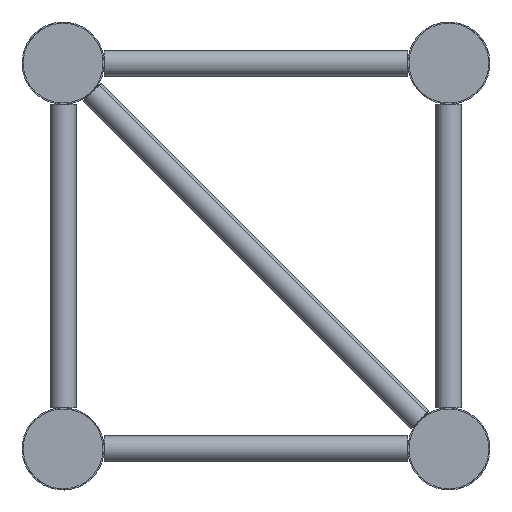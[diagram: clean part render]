
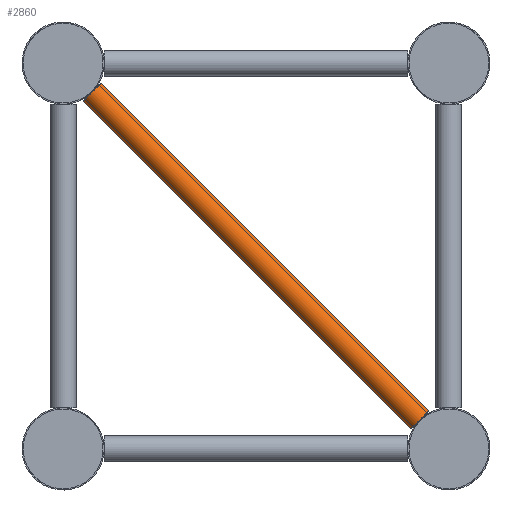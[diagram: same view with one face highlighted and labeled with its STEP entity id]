
A CAD part, left-side view. The second image highlights one B-rep face of the part: STEP entity #2860.
In plain terms, the highlighted cylindrical face has radius 8 mm (diameter 16 mm), a full revolution.
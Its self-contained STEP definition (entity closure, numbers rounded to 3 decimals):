
#123=B_SPLINE_CURVE_WITH_KNOTS('',3,(#4401,#4402,#4403,#4404,#4405,#4406),
 .UNSPECIFIED.,.F.,.F.,(4,2,4),(1.187,1.214,1.242),
 .UNSPECIFIED.);
#125=B_SPLINE_CURVE_WITH_KNOTS('',3,(#4419,#4420,#4421,#4422,#4423,#4424),
 .UNSPECIFIED.,.F.,.F.,(4,2,4),(3.616,3.643,3.67),
 .UNSPECIFIED.);
#128=B_SPLINE_CURVE_WITH_KNOTS('',3,(#4499,#4500,#4501,#4502,#4503,#4504),
 .UNSPECIFIED.,.F.,.F.,(4,2,4),(3.616,3.643,3.67),
 .UNSPECIFIED.);
#129=B_SPLINE_CURVE_WITH_KNOTS('',3,(#4508,#4509,#4510,#4511,#4512,#4513),
 .UNSPECIFIED.,.F.,.F.,(4,2,4),(1.187,1.214,1.242),
 .UNSPECIFIED.);
#328=CYLINDRICAL_SURFACE('',#3095,8.);
#406=FACE_BOUND('',#796,.T.);
#555=FACE_OUTER_BOUND('',#795,.T.);
#795=EDGE_LOOP('',(#1824,#1825,#1826,#1827));
#796=EDGE_LOOP('',(#1828,#1829,#1830,#1831));
#1145=CIRCLE('',#3096,8.);
#1146=CIRCLE('',#3097,8.);
#1147=CIRCLE('',#3098,8.);
#1148=CIRCLE('',#3099,8.);
#1242=VERTEX_POINT('',#4398);
#1243=VERTEX_POINT('',#4400);
#1246=VERTEX_POINT('',#4416);
#1247=VERTEX_POINT('',#4418);
#1270=VERTEX_POINT('',#4497);
#1271=VERTEX_POINT('',#4498);
#1272=VERTEX_POINT('',#4505);
#1273=VERTEX_POINT('',#4507);
#1458=EDGE_CURVE('',#1243,#1242,#123,.T.);
#1462=EDGE_CURVE('',#1247,#1246,#125,.T.);
#1489=EDGE_CURVE('',#1242,#1247,#1145,.T.);
#1490=EDGE_CURVE('',#1246,#1243,#1146,.T.);
#1491=EDGE_CURVE('',#1270,#1271,#128,.T.);
#1492=EDGE_CURVE('',#1271,#1272,#1147,.T.);
#1493=EDGE_CURVE('',#1272,#1273,#129,.T.);
#1494=EDGE_CURVE('',#1273,#1270,#1148,.T.);
#1824=ORIENTED_EDGE('',*,*,#1458,.T.);
#1825=ORIENTED_EDGE('',*,*,#1489,.T.);
#1826=ORIENTED_EDGE('',*,*,#1462,.T.);
#1827=ORIENTED_EDGE('',*,*,#1490,.T.);
#1828=ORIENTED_EDGE('',*,*,#1491,.T.);
#1829=ORIENTED_EDGE('',*,*,#1492,.T.);
#1830=ORIENTED_EDGE('',*,*,#1493,.T.);
#1831=ORIENTED_EDGE('',*,*,#1494,.T.);
#2860=ADVANCED_FACE('',(#555,#406),#328,.T.);
#3095=AXIS2_PLACEMENT_3D('',#4494,#3543,#3544);
#3096=AXIS2_PLACEMENT_3D('',#4495,#3545,#3546);
#3097=AXIS2_PLACEMENT_3D('',#4496,#3547,#3548);
#3098=AXIS2_PLACEMENT_3D('',#4506,#3549,#3550);
#3099=AXIS2_PLACEMENT_3D('',#4514,#3551,#3552);
#3543=DIRECTION('center_axis',(0.,0.707,
0.707));
#3544=DIRECTION('ref_axis',(0.,0.707,-0.707));
#3545=DIRECTION('center_axis',(0.,0.707,
0.707));
#3546=DIRECTION('ref_axis',(0.,0.707,-0.707));
#3547=DIRECTION('center_axis',(0.,0.707,
0.707));
#3548=DIRECTION('ref_axis',(0.,0.707,-0.707));
#3549=DIRECTION('center_axis',(0.,-0.707,
-0.707));
#3550=DIRECTION('ref_axis',(0.,0.707,-0.707));
#3551=DIRECTION('center_axis',(0.,-0.707,
-0.707));
#3552=DIRECTION('ref_axis',(0.,0.707,-0.707));
#4398=CARTESIAN_POINT('',(67.995,18.224,-221.164));
#4400=CARTESIAN_POINT('',(67.995,17.836,-220.776));
#4401=CARTESIAN_POINT('Ctrl Pts',(67.995,17.836,-220.776));
#4402=CARTESIAN_POINT('Ctrl Pts',(67.998,17.902,-220.84));
#4403=CARTESIAN_POINT('Ctrl Pts',(68.,17.967,-220.904));
#4404=CARTESIAN_POINT('Ctrl Pts',(68.,18.096,-221.033));
#4405=CARTESIAN_POINT('Ctrl Pts',(67.998,18.16,-221.098));
#4406=CARTESIAN_POINT('Ctrl Pts',(67.995,18.224,-221.164));
#4416=CARTESIAN_POINT('',(52.005,17.836,-220.776));
#4418=CARTESIAN_POINT('',(52.005,18.224,-221.164));
#4419=CARTESIAN_POINT('Ctrl Pts',(52.005,18.224,-221.164));
#4420=CARTESIAN_POINT('Ctrl Pts',(52.002,18.16,-221.098));
#4421=CARTESIAN_POINT('Ctrl Pts',(52.,18.096,-221.033));
#4422=CARTESIAN_POINT('Ctrl Pts',(52.,17.967,-220.904));
#4423=CARTESIAN_POINT('Ctrl Pts',(52.002,17.902,-220.84));
#4424=CARTESIAN_POINT('Ctrl Pts',(52.005,17.836,-220.776));
#4494=CARTESIAN_POINT('Origin',(60.,119.5,-119.5));
#4495=CARTESIAN_POINT('Origin',(60.,18.03,-220.97));
#4496=CARTESIAN_POINT('Origin',(60.,18.03,-220.97));
#4497=CARTESIAN_POINT('',(67.995,221.164,-18.224));
#4498=CARTESIAN_POINT('',(67.995,220.776,-17.836));
#4499=CARTESIAN_POINT('Ctrl Pts',(67.995,221.164,-18.224));
#4500=CARTESIAN_POINT('Ctrl Pts',(67.998,221.098,-18.16));
#4501=CARTESIAN_POINT('Ctrl Pts',(68.,221.033,-18.096));
#4502=CARTESIAN_POINT('Ctrl Pts',(68.,220.904,-17.967));
#4503=CARTESIAN_POINT('Ctrl Pts',(67.998,220.84,-17.902));
#4504=CARTESIAN_POINT('Ctrl Pts',(67.995,220.776,-17.836));
#4505=CARTESIAN_POINT('',(52.005,220.776,-17.836));
#4506=CARTESIAN_POINT('Origin',(60.,220.97,-18.03));
#4507=CARTESIAN_POINT('',(52.005,221.164,-18.224));
#4508=CARTESIAN_POINT('Ctrl Pts',(52.005,220.776,-17.836));
#4509=CARTESIAN_POINT('Ctrl Pts',(52.002,220.84,-17.902));
#4510=CARTESIAN_POINT('Ctrl Pts',(52.,220.904,-17.967));
#4511=CARTESIAN_POINT('Ctrl Pts',(52.,221.033,-18.096));
#4512=CARTESIAN_POINT('Ctrl Pts',(52.002,221.098,-18.16));
#4513=CARTESIAN_POINT('Ctrl Pts',(52.005,221.164,-18.224));
#4514=CARTESIAN_POINT('Origin',(60.,220.97,-18.03));
